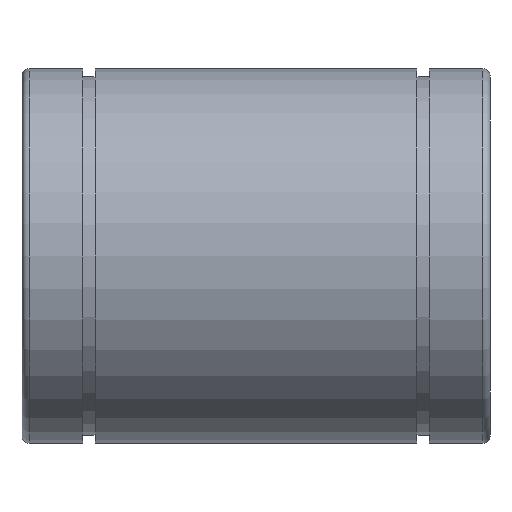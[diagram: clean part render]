
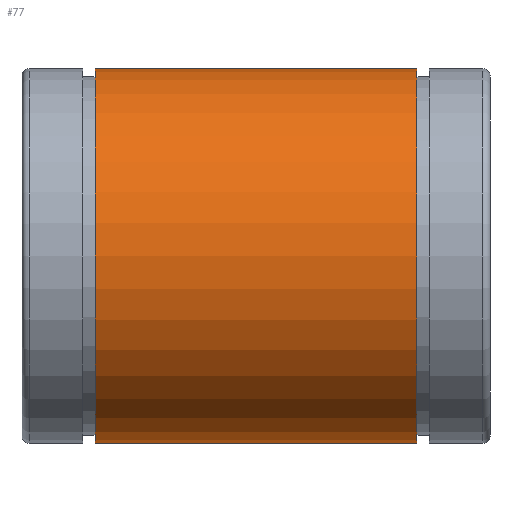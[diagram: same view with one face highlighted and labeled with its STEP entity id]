
A CAD part, front view. The second image highlights one B-rep face of the part: STEP entity #77.
In plain terms, the highlighted cylindrical face has radius 40 mm (diameter 80 mm), a full revolution.
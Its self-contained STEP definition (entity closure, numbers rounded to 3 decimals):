
#77=ADVANCED_FACE('',(#96,#97),#98,.T.);
#96=FACE_OUTER_BOUND('',#138,.T.);
#97=FACE_OUTER_BOUND('',#139,.T.);
#98=CYLINDRICAL_SURFACE('',#140,40.0);
#138=EDGE_LOOP('',(#184));
#139=EDGE_LOOP('',(#185));
#140=AXIS2_PLACEMENT_3D('',#186,#187,#188);
#184=ORIENTED_EDGE('',*,*,#247,.F.);
#185=ORIENTED_EDGE('',*,*,#248,.F.);
#186=CARTESIAN_POINT('',(0.0,0.0,0.0));
#187=DIRECTION('',(1.0,-0.0,-0.0));
#188=DIRECTION('',(0.0,1.0,0.0));
#247=EDGE_CURVE('',#264,#264,#265,.T.);
#248=EDGE_CURVE('',#266,#266,#267,.T.);
#264=VERTEX_POINT('',#292);
#265=CIRCLE('',#293,40.0);
#266=VERTEX_POINT('',#294);
#267=CIRCLE('',#295,40.0);
#292=CARTESIAN_POINT('',(34.4,40.0,0.0));
#293=AXIS2_PLACEMENT_3D('',#323,#324,#325);
#294=CARTESIAN_POINT('',(-34.4,-40.0,0.0));
#295=AXIS2_PLACEMENT_3D('',#326,#327,#328);
#323=CARTESIAN_POINT('',(34.4,0.0,0.0));
#324=DIRECTION('',(1.0,0.0,0.0));
#325=DIRECTION('',(0.0,1.0,0.0));
#326=CARTESIAN_POINT('',(-34.4,0.0,0.0));
#327=DIRECTION('',(-1.0,0.0,0.0));
#328=DIRECTION('',(0.0,-1.0,0.0));
